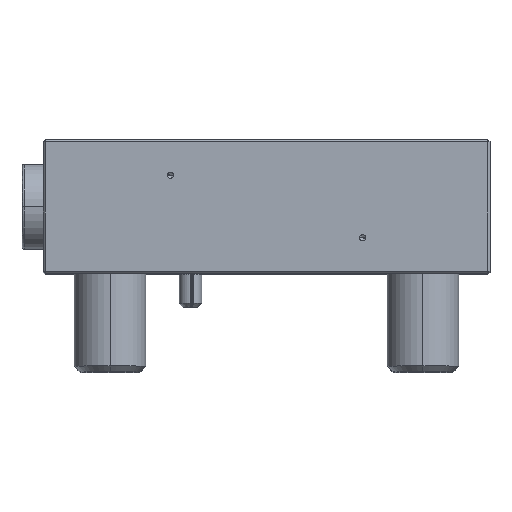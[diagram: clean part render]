
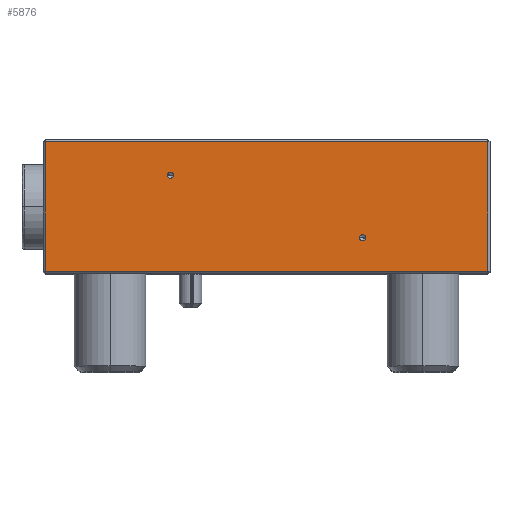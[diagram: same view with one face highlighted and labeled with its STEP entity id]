
A CAD part, top view. The second image highlights one B-rep face of the part: STEP entity #5876.
In plain terms, the highlighted planar face has unit normal (0, 0, 1).
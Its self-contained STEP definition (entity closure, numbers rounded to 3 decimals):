
#931 = ORIENTED_EDGE ( 'NONE', *, *, #10500, .T. ) ;
#948 = CIRCLE ( 'NONE', #4721, 0.7 ) ;
#957 = CARTESIAN_POINT ( 'NONE',  ( -49.5, -14.5, 50. ) ) ;
#1266 = EDGE_CURVE ( 'NONE', #9393, #3175, #948, .T. ) ;
#1427 = ORIENTED_EDGE ( 'NONE', *, *, #10437, .T. ) ;
#1434 = AXIS2_PLACEMENT_3D ( 'NONE', #10100, #10096, #10084 ) ;
#1546 = ORIENTED_EDGE ( 'NONE', *, *, #10459, .T. ) ;
#2135 = LINE ( 'NONE', #3796, #10531 ) ;
#2518 = FACE_BOUND ( 'NONE', #4567, .T. ) ;
#2559 = FACE_BOUND ( 'NONE', #7045, .T. ) ;
#2570 = FACE_OUTER_BOUND ( 'NONE', #8091, .T. ) ;
#2627 = VERTEX_POINT ( 'NONE', #7649 ) ;
#3072 = DIRECTION ( 'NONE',  ( 1., 0., 0. ) ) ;
#3080 = DIRECTION ( 'NONE',  ( 0., 0., 1. ) ) ;
#3084 = CARTESIAN_POINT ( 'NONE',  ( -21.5, 7., 50. ) ) ;
#3164 = VERTEX_POINT ( 'NONE', #7980 ) ;
#3175 = VERTEX_POINT ( 'NONE', #4029 ) ;
#3193 = CIRCLE ( 'NONE', #10166, 0.7 ) ;
#3308 = VERTEX_POINT ( 'NONE', #5045 ) ;
#3796 = CARTESIAN_POINT ( 'NONE',  ( -50., 14.5, 50. ) ) ;
#3834 = ORIENTED_EDGE ( 'NONE', *, *, #8783, .F. ) ;
#3961 = CARTESIAN_POINT ( 'NONE',  ( -49.5, 14.5, 50. ) ) ;
#4029 = CARTESIAN_POINT ( 'NONE',  ( -22.2, 7., 50. ) ) ;
#4096 = EDGE_CURVE ( 'NONE', #3164, #9724, #2135, .T. ) ;
#4218 = VERTEX_POINT ( 'NONE', #957 ) ;
#4327 = DIRECTION ( 'NONE',  ( -1., 0., 0. ) ) ;
#4567 = EDGE_LOOP ( 'NONE', ( #4965, #6163 ) ) ;
#4721 = AXIS2_PLACEMENT_3D ( 'NONE', #8315, #8356, #8391 ) ;
#4965 = ORIENTED_EDGE ( 'NONE', *, *, #10516, .F. ) ;
#5045 = CARTESIAN_POINT ( 'NONE',  ( 20.8, -7., 50. ) ) ;
#5876 = ADVANCED_FACE ( 'NONE', ( #2570, #2559, #2518 ), #10245, .F. ) ;
#6027 = CARTESIAN_POINT ( 'NONE',  ( -20.8, 7., 50. ) ) ;
#6115 = ORIENTED_EDGE ( 'NONE', *, *, #1266, .F. ) ;
#6163 = ORIENTED_EDGE ( 'NONE', *, *, #9947, .F. ) ;
#6384 = AXIS2_PLACEMENT_3D ( 'NONE', #8765, #8636, #8730 ) ;
#6672 = DIRECTION ( 'NONE',  ( 1., 0., 0. ) ) ;
#6676 = DIRECTION ( 'NONE',  ( 0., 0., 1. ) ) ;
#6704 = CARTESIAN_POINT ( 'NONE',  ( 21.5, -7., 50. ) ) ;
#6977 = CIRCLE ( 'NONE', #10024, 0.7 ) ;
#7045 = EDGE_LOOP ( 'NONE', ( #6115, #3834 ) ) ;
#7372 = LINE ( 'NONE', #10241, #9610 ) ;
#7649 = CARTESIAN_POINT ( 'NONE',  ( 22.2, -7., 50. ) ) ;
#7761 = VECTOR ( 'NONE', #9057, 1000. ) ;
#7980 = CARTESIAN_POINT ( 'NONE',  ( 49.5, 14.5, 50. ) ) ;
#8075 = CARTESIAN_POINT ( 'NONE',  ( 49.5, -14.5, 50. ) ) ;
#8091 = EDGE_LOOP ( 'NONE', ( #9108, #1546, #931, #1427 ) ) ;
#8315 = CARTESIAN_POINT ( 'NONE',  ( -21.5, 7., 50. ) ) ;
#8356 = DIRECTION ( 'NONE',  ( 0., 0., 1. ) ) ;
#8391 = DIRECTION ( 'NONE',  ( 1., 0., 0. ) ) ;
#8636 = DIRECTION ( 'NONE',  ( 0., 0., 1. ) ) ;
#8730 = DIRECTION ( 'NONE',  ( 1., 0., 0. ) ) ;
#8765 = CARTESIAN_POINT ( 'NONE',  ( 21.5, -7., 50. ) ) ;
#8783 = EDGE_CURVE ( 'NONE', #3175, #9393, #6977, .T. ) ;
#9057 = DIRECTION ( 'NONE',  ( 1., 0., 0. ) ) ;
#9061 = CIRCLE ( 'NONE', #6384, 0.7 ) ;
#9079 = LINE ( 'NONE', #9164, #7761 ) ;
#9108 = ORIENTED_EDGE ( 'NONE', *, *, #4096, .T. ) ;
#9164 = CARTESIAN_POINT ( 'NONE',  ( -50., -14.5, 50. ) ) ;
#9286 = VERTEX_POINT ( 'NONE', #8075 ) ;
#9393 = VERTEX_POINT ( 'NONE', #6027 ) ;
#9610 = VECTOR ( 'NONE', #10175, 1000. ) ;
#9724 = VERTEX_POINT ( 'NONE', #3961 ) ;
#9786 = VECTOR ( 'NONE', #10342, 1000. ) ;
#9796 = LINE ( 'NONE', #10447, #9786 ) ;
#9947 = EDGE_CURVE ( 'NONE', #3308, #2627, #3193, .T. ) ;
#10024 = AXIS2_PLACEMENT_3D ( 'NONE', #3084, #3080, #3072 ) ;
#10084 = DIRECTION ( 'NONE',  ( -1., 0., 0. ) ) ;
#10096 = DIRECTION ( 'NONE',  ( 0., 0., -1. ) ) ;
#10100 = CARTESIAN_POINT ( 'NONE',  ( -50., 15., 50. ) ) ;
#10166 = AXIS2_PLACEMENT_3D ( 'NONE', #6704, #6676, #6672 ) ;
#10175 = DIRECTION ( 'NONE',  ( 0., -1., 0. ) ) ;
#10241 = CARTESIAN_POINT ( 'NONE',  ( -49.5, 15., 50. ) ) ;
#10245 = PLANE ( 'NONE',  #1434 ) ;
#10342 = DIRECTION ( 'NONE',  ( 0., 1., 0. ) ) ;
#10437 = EDGE_CURVE ( 'NONE', #9286, #3164, #9796, .T. ) ;
#10447 = CARTESIAN_POINT ( 'NONE',  ( 49.5, 15., 50. ) ) ;
#10459 = EDGE_CURVE ( 'NONE', #9724, #4218, #7372, .T. ) ;
#10500 = EDGE_CURVE ( 'NONE', #4218, #9286, #9079, .T. ) ;
#10516 = EDGE_CURVE ( 'NONE', #2627, #3308, #9061, .T. ) ;
#10531 = VECTOR ( 'NONE', #4327, 1000. ) ;
